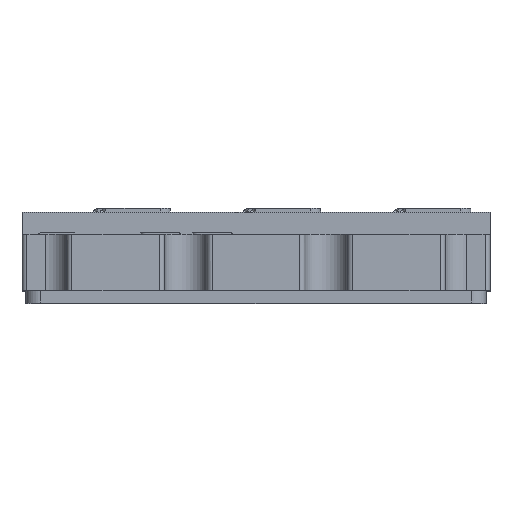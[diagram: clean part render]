
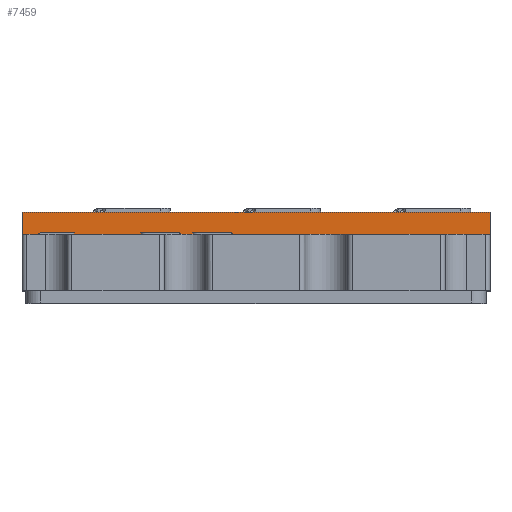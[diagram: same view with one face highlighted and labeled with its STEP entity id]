
A CAD part, top view. The second image highlights one B-rep face of the part: STEP entity #7459.
In plain terms, the highlighted planar face has unit normal (0, 0, 1).
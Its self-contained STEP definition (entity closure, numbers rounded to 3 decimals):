
#7023 = EDGE_CURVE ( 'NONE', #17973, #7764, #26576, .T. ) ;
#7244 = VERTEX_POINT ( 'NONE', #27030 ) ;
#7270 = EDGE_CURVE ( 'NONE', #17997, #7244, #27075, .T. ) ;
#7402 = ORIENTED_EDGE ( 'NONE', *, *, #7270, .F. ) ;
#7408 = EDGE_LOOP ( 'NONE', ( #7476, #7402, #7460, #7477 ) ) ;
#7459 = ADVANCED_FACE ( 'NONE', ( #27417 ), #27423, .T. ) ;
#7460 = ORIENTED_EDGE ( 'NONE', *, *, #17929, .F. ) ;
#7476 = ORIENTED_EDGE ( 'NONE', *, *, #7767, .T. ) ;
#7477 = ORIENTED_EDGE ( 'NONE', *, *, #7023, .T. ) ;
#7764 = VERTEX_POINT ( 'NONE', #27964 ) ;
#7767 = EDGE_CURVE ( 'NONE', #7764, #7244, #27941, .T. ) ;
#16284 = DIRECTION ( 'NONE',  ( 1., 0., 0. ) ) ;
#16285 = VECTOR ( 'NONE', #16284, 1000. ) ;
#16286 = CARTESIAN_POINT ( 'NONE',  ( -95., 9., 32.5 ) ) ;
#16287 = LINE ( 'NONE', #16286, #16285 ) ;
#16297 = CARTESIAN_POINT ( 'NONE',  ( -95., 9., 32.5 ) ) ;
#16363 = CARTESIAN_POINT ( 'NONE',  ( 95., 9., 32.5 ) ) ;
#17929 = EDGE_CURVE ( 'NONE', #17973, #17997, #16287, .T. ) ;
#17973 = VERTEX_POINT ( 'NONE', #16297 ) ;
#17997 = VERTEX_POINT ( 'NONE', #16363 ) ;
#26573 = DIRECTION ( 'NONE',  ( 0., -1., 0. ) ) ;
#26574 = VECTOR ( 'NONE', #26573, 1000. ) ;
#26575 = CARTESIAN_POINT ( 'NONE',  ( -95., 9., 32.5 ) ) ;
#26576 = LINE ( 'NONE', #26575, #26574 ) ;
#27030 = CARTESIAN_POINT ( 'NONE',  ( 95., 0., 32.5 ) ) ;
#27072 = DIRECTION ( 'NONE',  ( 0., -1., 0. ) ) ;
#27073 = VECTOR ( 'NONE', #27072, 1000. ) ;
#27074 = CARTESIAN_POINT ( 'NONE',  ( 95., 9., 32.5 ) ) ;
#27075 = LINE ( 'NONE', #27074, #27073 ) ;
#27412 = DIRECTION ( 'NONE',  ( 1., 0., 0. ) ) ;
#27413 = DIRECTION ( 'NONE',  ( 0., 0., 1. ) ) ;
#27414 = CARTESIAN_POINT ( 'NONE',  ( -95., 9., 32.5 ) ) ;
#27417 = FACE_OUTER_BOUND ( 'NONE', #7408, .T. ) ;
#27423 = PLANE ( 'NONE',  #27435 ) ;
#27435 = AXIS2_PLACEMENT_3D ( 'NONE', #27414, #27413, #27412 ) ;
#27938 = DIRECTION ( 'NONE',  ( 1., 0., 0. ) ) ;
#27939 = VECTOR ( 'NONE', #27938, 1000. ) ;
#27940 = CARTESIAN_POINT ( 'NONE',  ( -95., 0., 32.5 ) ) ;
#27941 = LINE ( 'NONE', #27940, #27939 ) ;
#27964 = CARTESIAN_POINT ( 'NONE',  ( -95., 0., 32.5 ) ) ;
